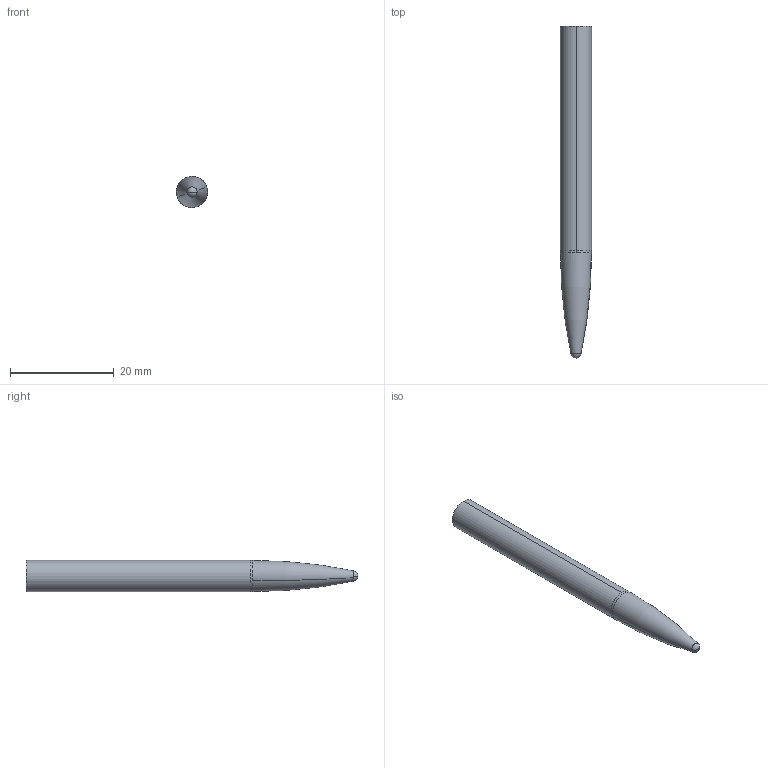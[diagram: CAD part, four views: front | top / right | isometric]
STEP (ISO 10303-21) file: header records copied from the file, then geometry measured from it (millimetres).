
FILE_DESCRIPTION((' '),'2;1');
FILE_NAME( '6MM X R95MM OVAL.stp', '2023-03-22T15:22:40', (' '), ('--- Datakit www.datakit.com---'), ' Datakit CrossCadWare V2022.2 Mar 12 2022', 'Mastercam 2023', ' ');
FILE_SCHEMA(('AUTOMOTIVE_DESIGN { 1 0 10303 214 1 1 1 1 }'));
Length unit declared in the file: inch
Products named in the file (1): 6MM X R95MM OVAL
Bounding box: 6 x 64 x 6 mm (x, y, z)
Volume: 1591.8 mm3; surface area: 1144.1 mm2
Topology: 1 solids, 1 shells, 9 faces, 23 edges, 14 vertices
Faces by surface type: cylinder 4, sphere 2, torus 2, plane 1
Entity records: 296 total; most frequent: DIRECTION 58, CARTESIAN_POINT 45, ORIENTED_EDGE 42, AXIS2_PLACEMENT_3D 27, EDGE_CURVE 21, CIRCLE 17, VERTEX_POINT 14, EDGE_LOOP 9
